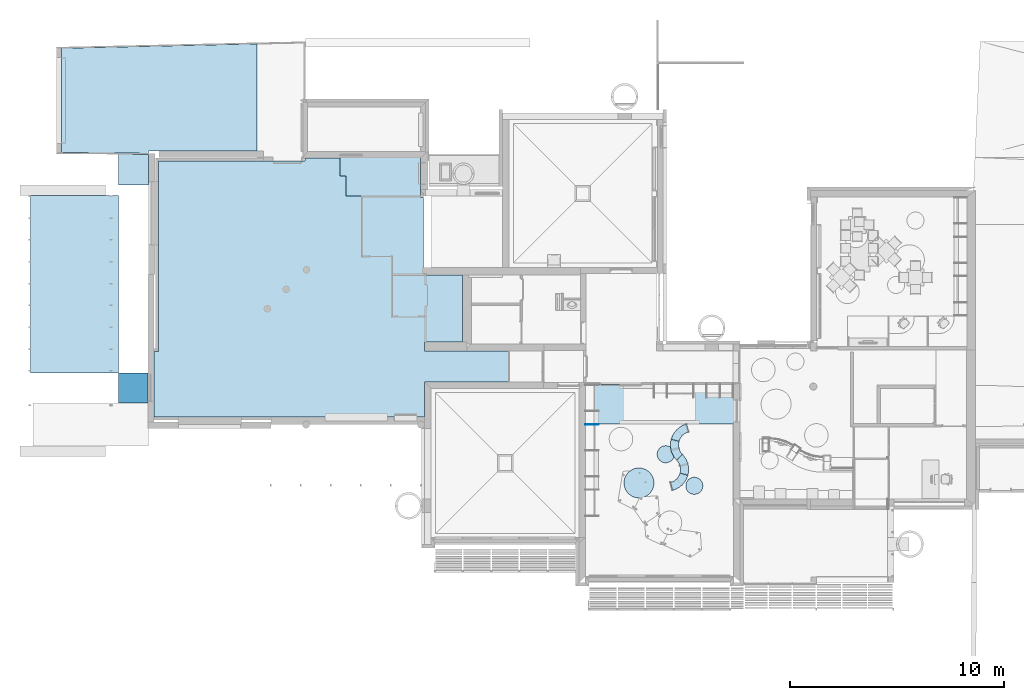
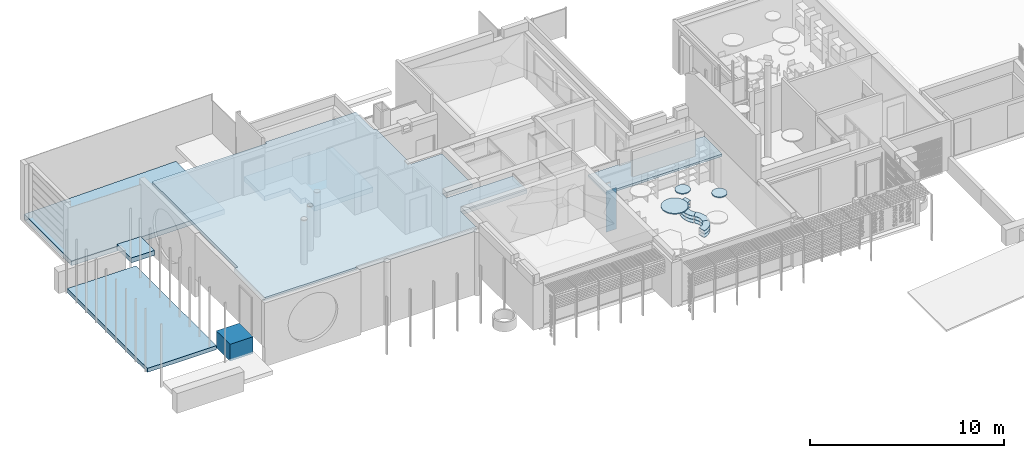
# One storey, part 11 of 64: 23 slabs.
"""IFC2X3 building model written with IfcOpenShell, lengths in metres."""

import ifcopenshell
import ifcopenshell.guid

model = None  # the IFC model being written
_history = None  # IfcOwnerHistory: only IFC2X3 demands one
_inside = {}  # id of a spatial element -> (the spatial element, [elements in it])
_under = {}  # id of a project, library or spatial element -> (it, [spatial elements below it])
_declared = {}  # id of a project -> (the project, [libraries it declares])
_typed = {}  # id of a type object -> (the type object, [elements of that type])
_made_of = {}  # id of a material, layer set ... -> (it, [elements and type objects made of it])


def new_model(schema):
    """Start an empty IFC model of exactly this schema.

    Asked for "IFC4X3", IfcOpenShell would pick the latest addendum, in which some entities
    have other attributes; the version numbers below select the first issue.
    IFC2X3 requires an IfcOwnerHistory on every rooted entity: one is made here for all.
    """
    global model, _history
    if schema == "IFC4X3":
        model = ifcopenshell.file(schema_version=(4, 3, 0, 0))
    else:
        model = ifcopenshell.file(schema=schema)
    _inside.clear()
    _under.clear()
    _declared.clear()
    _typed.clear()
    _made_of.clear()
    _history = None
    if model.schema == "IFC2X3":
        org = make("IfcOrganization", Name="unknown")
        user = make(
            "IfcPersonAndOrganization",
            ThePerson=make("IfcPerson", FamilyName="unknown"),
            TheOrganization=org,
        )
        app = make(
            "IfcApplication",
            ApplicationDeveloper=org,
            Version="unknown",
            ApplicationFullName="unknown",
            ApplicationIdentifier="unknown",
        )
        _history = make(
            "IfcOwnerHistory",
            OwningUser=user,
            OwningApplication=app,
            ChangeAction="ADDED",
            CreationDate=0,
        )
    return model


def make(cls, **values):
    """One entity of the class cls with the attributes given. An attribute that is None is left unset."""
    return model.create_entity(
        cls, **{name: value for name, value in values.items() if value is not None}
    )


def entity(cls, *values):
    """Any entity or typed value of the class cls, its attributes in the order of the schema. None: left unset."""
    e = model.create_entity(cls)
    for i, value in enumerate(values):
        if value is not None:
            e[i] = value
    return e


def rooted(cls, **values):
    """An entity with a GlobalId (a new one), such as an element, a storey or a relation."""
    return make(cls, GlobalId=ifcopenshell.guid.new(), OwnerHistory=_history, **values)


def si_unit(unit_type, name, prefix=None):
    """IfcSIUnit, for example si_unit("LENGTHUNIT", "METRE", prefix="MILLI")."""
    return make("IfcSIUnit", UnitType=unit_type, Prefix=prefix, Name=name)


def converted_unit(unit_type, name, factor, base, dimensions=None, offset=None):
    """IfcConversionBasedUnit, such as the inch: factor (a typed value) times the base unit."""
    return make(
        "IfcConversionBasedUnit"
        if offset is None
        else "IfcConversionBasedUnitWithOffset",
        ConversionOffset=offset,
        Dimensions=None
        if dimensions is None
        else entity("IfcDimensionalExponents", *dimensions),
        UnitType=unit_type,
        Name=name,
        ConversionFactor=make(
            "IfcMeasureWithUnit", ValueComponent=factor, UnitComponent=base
        ),
    )


def derived_unit(unit_type, elements):
    """IfcDerivedUnit: a product of units, each with its exponent."""
    return make(
        "IfcDerivedUnit",
        Elements=[
            make("IfcDerivedUnitElement", Unit=unit, Exponent=power)
            for unit, power in elements
        ],
        UnitType=unit_type,
    )


def assignment(units):
    """IfcUnitAssignment: the units of a project."""
    return None if units is None else make("IfcUnitAssignment", Units=units)


def point(xyz):
    """IfcCartesianPoint."""
    return None if xyz is None else make("IfcCartesianPoint", Coordinates=xyz)


def direction(xyz):
    """IfcDirection."""
    return None if xyz is None else make("IfcDirection", DirectionRatios=xyz)


def frame(location, z_axis=None, x_axis=None):
    """IfcAxis2Placement3D, a coordinate frame: its origin and axes. An axis left out is left unset."""
    return make(
        "IfcAxis2Placement3D",
        Location=point(location),
        Axis=direction(z_axis),
        RefDirection=direction(x_axis),
    )


def frame_2d(location, x_axis=None):
    """IfcAxis2Placement2D, a coordinate frame in the plane: its origin and x axis."""
    return make(
        "IfcAxis2Placement2D", Location=point(location), RefDirection=direction(x_axis)
    )


def origin():
    """The frame at (0, 0, 0) with its axes left unset."""
    return frame((0.0, 0.0, 0.0))


def origin_2d_with_axis():
    """The frame at (0, 0) in the plane with the x axis (1, 0) written out."""
    return frame_2d((0.0, 0.0), x_axis=(1.0, 0.0))


def place(relative_to, where):
    """IfcLocalPlacement: puts the frame where relative to a parent placement (None: the world)."""
    return make(
        "IfcLocalPlacement", PlacementRelTo=relative_to, RelativePlacement=where
    )


def context(
    kind, dimensions, precision=None, world=None, true_north=None, identifier=None
):
    """IfcGeometricRepresentationContext, for example the 3D "Model" context."""
    return make(
        "IfcGeometricRepresentationContext",
        ContextIdentifier=identifier,
        ContextType=kind,
        CoordinateSpaceDimension=dimensions,
        Precision=precision,
        WorldCoordinateSystem=world,
        TrueNorth=true_north,
    )


def subcontext(parent, identifier, kind, view, scale=None):
    """IfcGeometricRepresentationSubContext, for example "Body" below "Model"."""
    return make(
        "IfcGeometricRepresentationSubContext",
        ContextIdentifier=identifier,
        ContextType=kind,
        ParentContext=parent,
        TargetScale=scale,
        TargetView=view,
    )


def project(units=None, contexts=None):
    """IfcProject with its units and contexts."""
    return rooted(
        "IfcProject",
        Name="project",
        RepresentationContexts=contexts,
        UnitsInContext=assignment(units),
    )


def spatial(cls, under=None, at=None, **own):
    """A site, building, storey or space (cls), placed at a placement, below another one or the project."""
    s = rooted(cls, ObjectPlacement=at, **own)
    if under is not None:
        _under.setdefault(under.id(), (under, []))[1].append(s)
    return s


def polyline(points):
    """IfcPolyline through the points."""
    return make("IfcPolyline", Points=[point(p) for p in points])


def circle_curve(where, radius):
    """IfcCircle in the frame where."""
    return make("IfcCircle", Position=where, Radius=radius)


def parameter(value):
    """IfcParameterValue: where a trimmed curve begins or ends, as a parameter of its basis curve."""
    return model.create_entity("IfcParameterValue", value)


def trimmed(basis, trim1, trim2, sense, master):
    """IfcTrimmedCurve: the piece of a basis curve between two trims."""
    return make(
        "IfcTrimmedCurve",
        BasisCurve=basis,
        Trim1=trim1,
        Trim2=trim2,
        SenseAgreement=sense,
        MasterRepresentation=master,
    )


def segment(curve, same_sense, transition):
    """IfcCompositeCurveSegment."""
    return make(
        "IfcCompositeCurveSegment",
        Transition=transition,
        SameSense=same_sense,
        ParentCurve=curve,
    )


def composite_curve(segments, self_intersect=None):
    """IfcCompositeCurve: segments joined end to end."""
    return make("IfcCompositeCurve", Segments=segments, SelfIntersect=self_intersect)


def profile(cls, at=None, kind="AREA", **sizes):
    """A parametric profile (cls). Its sizes go by their IFC names, for example OverallWidth=200.0."""
    return make(cls, ProfileType=kind, Position=at, **sizes)


def rectangle(**sizes):
    """IfcRectangleProfileDef."""
    return profile("IfcRectangleProfileDef", **sizes)


def circle(**sizes):
    """IfcCircleProfileDef."""
    return profile("IfcCircleProfileDef", **sizes)


def outline(outer, holes=None, kind="AREA"):
    """IfcArbitraryClosedProfileDef: a profile drawn as a closed curve; with holes, ...WithVoids."""
    if holes is None:
        return make("IfcArbitraryClosedProfileDef", ProfileType=kind, OuterCurve=outer)
    return make(
        "IfcArbitraryProfileDefWithVoids",
        ProfileType=kind,
        OuterCurve=outer,
        InnerCurves=holes,
    )


def extrude(swept, where, along, depth):
    """IfcExtrudedAreaSolid: the profile swept, set in the frame where, extruded along a direction by depth."""
    return make(
        "IfcExtrudedAreaSolid",
        SweptArea=swept,
        Position=where,
        ExtrudedDirection=direction(along),
        Depth=depth,
    )


def shape(context_of_items, identifier, shape_type, items):
    """IfcShapeRepresentation: the items that make up one representation, for example the "Body"."""
    return make(
        "IfcShapeRepresentation",
        ContextOfItems=context_of_items,
        RepresentationIdentifier=identifier,
        RepresentationType=shape_type,
        Items=items,
    )


def material(Name=None, Category=None):
    """IfcMaterial."""
    return make("IfcMaterial", Name=Name, Category=Category)


def layer(
    of_material, thickness, ventilated=None, Name=None, Category=None, Priority=None
):
    """IfcMaterialLayer: one layer of a wall or slab, of a material (None: an air gap)."""
    return make(
        "IfcMaterialLayer",
        Material=of_material,
        LayerThickness=thickness,
        IsVentilated=ventilated,
        Name=Name,
        Category=Category,
        Priority=Priority,
    )


def layer_set(layers, Name=None):
    """IfcMaterialLayerSet."""
    return make("IfcMaterialLayerSet", MaterialLayers=layers, LayerSetName=Name)


def layer_usage(for_layer_set, set_direction, sense, offset, extent=None):
    """IfcMaterialLayerSetUsage: how a layer set lies in its element."""
    return make(
        "IfcMaterialLayerSetUsage",
        ForLayerSet=for_layer_set,
        LayerSetDirection=set_direction,
        DirectionSense=sense,
        OffsetFromReferenceLine=offset,
        ReferenceExtent=extent,
    )


def made_of(thing, what):
    """Note that an element or type object is made of a material, layer set ...; save() writes the relation."""
    if what is not None:
        _made_of.setdefault(what.id(), (what, []))[1].append(thing)
    return thing


def type_object(cls, material=None, **own):
    """A type object (cls), such as IfcWallType, which elements share."""
    return made_of(rooted(cls, **own), material)


def element(
    cls,
    number,
    at=None,
    inside=None,
    cuts=None,
    type_object=None,
    material=None,
    context=None,
    identifier="Body",
    shape_type=None,
    held_by="IfcProductDefinitionShape",
    body=None,
    shapes=None,
    **own,
):
    """One element of the class cls, such as IfcWall. Its Tag is "e" and its number.

    at: its placement. inside: the storey or other place that contains it. cuts: it is an
    opening in that element (IfcRelVoidsElement). A single representation is given by context,
    identifier, shape_type and body (its items); several are given by shapes. held_by: the class
    of the entity that holds the representations. save() writes the other relations.
    """
    e = rooted(cls, Tag="e%d" % number, ObjectPlacement=at, **own)
    if body is not None:
        shapes = [shape(context, identifier, shape_type, body)]
    if shapes is not None:
        e.Representation = make(held_by, Representations=shapes)
    if inside is not None:
        _inside.setdefault(inside.id(), (inside, []))[1].append(e)
    if cuts is not None:
        rooted(
            "IfcRelVoidsElement", RelatingBuildingElement=cuts, RelatedOpeningElement=e
        )
    if type_object is not None:
        _typed.setdefault(type_object.id(), (type_object, []))[1].append(e)
    return made_of(e, material)


def aggregate(whole, parts):
    """IfcRelAggregates: a whole, such as a stair, and the parts it consists of."""
    return rooted("IfcRelAggregates", RelatingObject=whole, RelatedObjects=parts)


def save(model, path):
    """Write the relations noted so far, then the file.

    IfcRelAggregates (storeys below a building ...), IfcRelContainedInSpatialStructure (elements
    in a storey), IfcRelDefinesByType, IfcRelAssociatesMaterial and IfcRelDeclares: one each for
    every whole, place, type object, material and project.
    """
    for whole, parts in _under.values():
        aggregate(whole, parts)
    for where, things in _inside.values():
        rooted(
            "IfcRelContainedInSpatialStructure",
            RelatedElements=things,
            RelatingStructure=where,
        )
    for kind, things in _typed.values():
        rooted("IfcRelDefinesByType", RelatedObjects=things, RelatingType=kind)
    for what, things in _made_of.values():
        rooted("IfcRelAssociatesMaterial", RelatedObjects=things, RelatingMaterial=what)
    for by, libraries in _declared.values():
        rooted("IfcRelDeclares", RelatingContext=by, RelatedDefinitions=libraries)
    model.write(path)


model = new_model("IFC2X3")

# Units and contexts
model_context = context("Model", 3, precision=1e-05, world=origin(), true_north=direction((6.123031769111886e-17, 1.0)))
body_context = subcontext(model_context, "Body", "Model", "MODEL_VIEW")
ifc_project = project(units=[si_unit("LENGTHUNIT", "METRE"), si_unit("AREAUNIT", "SQUARE_METRE"), si_unit("VOLUMEUNIT", "CUBIC_METRE"), converted_unit("PLANEANGLEUNIT", "DEGREE", entity("IfcRatioMeasure", 0.017453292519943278), si_unit("PLANEANGLEUNIT", "RADIAN"), dimensions=[0, 0, 0, 0, 0, 0, 0]), si_unit("MASSUNIT", "GRAM", prefix="KILO"), derived_unit("MASSDENSITYUNIT", [(si_unit("MASSUNIT", "GRAM", prefix="KILO"), 1), (si_unit("LENGTHUNIT", "METRE"), -3)]), derived_unit("MOMENTOFINERTIAUNIT", [(si_unit("LENGTHUNIT", "METRE"), 4)]), si_unit("TIMEUNIT", "SECOND"), si_unit("FREQUENCYUNIT", "HERTZ"), si_unit("THERMODYNAMICTEMPERATUREUNIT", "DEGREE_CELSIUS"), derived_unit("THERMALTRANSMITTANCEUNIT", [(si_unit("MASSUNIT", "GRAM", prefix="KILO"), 1), (si_unit("THERMODYNAMICTEMPERATUREUNIT", "KELVIN"), -1), (si_unit("TIMEUNIT", "SECOND"), -3)]), derived_unit("THERMALCONDUCTANCEUNIT", [(si_unit("MASSUNIT", "GRAM", prefix="KILO"), 1), (si_unit("LENGTHUNIT", "METRE"), 1), (si_unit("THERMODYNAMICTEMPERATUREUNIT", "KELVIN"), -1), (si_unit("TIMEUNIT", "SECOND"), -3)]), derived_unit("VOLUMETRICFLOWRATEUNIT", [(si_unit("LENGTHUNIT", "METRE"), 3), (si_unit("TIMEUNIT", "SECOND"), -1)]), derived_unit("MASSFLOWRATEUNIT", [(si_unit("MASSUNIT", "GRAM", prefix="KILO"), 1), (si_unit("TIMEUNIT", "SECOND"), -1)]), derived_unit("ROTATIONALFREQUENCYUNIT", [(si_unit("TIMEUNIT", "SECOND"), -1)]), si_unit("ELECTRICCURRENTUNIT", "AMPERE"), si_unit("ELECTRICVOLTAGEUNIT", "VOLT"), si_unit("POWERUNIT", "WATT"), si_unit("FORCEUNIT", "NEWTON", prefix="KILO"), si_unit("ILLUMINANCEUNIT", "LUX"), si_unit("LUMINOUSFLUXUNIT", "LUMEN"), si_unit("LUMINOUSINTENSITYUNIT", "CANDELA"), derived_unit("USERDEFINED", [(si_unit("MASSUNIT", "GRAM", prefix="KILO"), -1), (si_unit("LENGTHUNIT", "METRE"), -2), (si_unit("TIMEUNIT", "SECOND"), 3), (si_unit("LUMINOUSFLUXUNIT", "LUMEN"), 1)]), derived_unit("USERDEFINED", [(si_unit("MASSUNIT", "GRAM", prefix="KILO"), 1), (si_unit("LENGTHUNIT", "METRE"), 3), (si_unit("TIMEUNIT", "SECOND"), -3), (si_unit("ELECTRICCURRENTUNIT", "AMPERE"), -2)]), derived_unit("USERDEFINED", [(si_unit("LENGTHUNIT", "METRE"), 2), (si_unit("TIMEUNIT", "SECOND"), -2)]), derived_unit("SOUNDPOWERUNIT", [(si_unit("MASSUNIT", "GRAM", prefix="KILO"), 1), (si_unit("LENGTHUNIT", "METRE"), 2), (si_unit("TIMEUNIT", "SECOND"), -3)]), derived_unit("SOUNDPRESSUREUNIT", [(si_unit("MASSUNIT", "GRAM", prefix="KILO"), 1), (si_unit("LENGTHUNIT", "METRE"), -1), (si_unit("TIMEUNIT", "SECOND"), -2)]), derived_unit("LINEARVELOCITYUNIT", [(si_unit("LENGTHUNIT", "METRE"), 1), (si_unit("TIMEUNIT", "SECOND"), -1)]), si_unit("PRESSUREUNIT", "PASCAL"), derived_unit("USERDEFINED", [(si_unit("LENGTHUNIT", "METRE"), -2), (si_unit("MASSUNIT", "GRAM", prefix="KILO"), 1), (si_unit("TIMEUNIT", "SECOND"), -2)]), derived_unit("LINEARFORCEUNIT", [(si_unit("MASSUNIT", "GRAM", prefix="KILO"), 1), (si_unit("LENGTHUNIT", "METRE"), 1), (si_unit("TIMEUNIT", "SECOND"), -2), (si_unit("LENGTHUNIT", "METRE"), -1)]), derived_unit("PLANARFORCEUNIT", [(si_unit("MASSUNIT", "GRAM", prefix="KILO"), 1), (si_unit("LENGTHUNIT", "METRE"), 1), (si_unit("TIMEUNIT", "SECOND"), -2), (si_unit("LENGTHUNIT", "METRE"), -2)]), derived_unit("SPECIFICHEATCAPACITYUNIT", [(si_unit("LENGTHUNIT", "METRE"), 2), (si_unit("TIMEUNIT", "SECOND"), -2), (si_unit("THERMODYNAMICTEMPERATUREUNIT", "KELVIN"), -1)]), derived_unit("VAPORPERMEABILITYUNIT", [(si_unit("TIMEUNIT", "SECOND"), 1), (si_unit("LENGTHUNIT", "METRE"), -1)]), derived_unit("DYNAMICVISCOSITYUNIT", [(si_unit("MASSUNIT", "GRAM", prefix="KILO"), 1), (si_unit("LENGTHUNIT", "METRE"), -1), (si_unit("TIMEUNIT", "SECOND"), -1)]), derived_unit("THERMALEXPANSIONCOEFFICIENTUNIT", [(si_unit("THERMODYNAMICTEMPERATUREUNIT", "KELVIN"), -1)])], contexts=[model_context])

# Site, building, storey
site_placement = place(None, origin())
site = spatial("IfcSite", under=ifc_project, at=site_placement, Name="Default", CompositionType="ELEMENT")
building_placement = place(site_placement, origin())
building = spatial("IfcBuilding", under=site, at=building_placement, CompositionType="ELEMENT")
storey_placement = place(building_placement, origin())
storey = spatial("IfcBuildingStorey", under=building, at=storey_placement, Name="REZ-DE-CHAUSSÉE", CompositionType="ELEMENT", Elevation=0.0)

# Slabs
ifc_material_1 = material(Name="Surface-Blanc")
slab_type_1 = type_object("IfcSlabType", Name="Dalle-009:Dalle-009", PredefinedType="FLOOR", material=ifc_material_1)
slab_1_placement = place(storey_placement, origin())
element("IfcSlab", 1, at=slab_1_placement, inside=storey, type_object=slab_type_1, Name="Dalle-009:Dalle-009", ObjectType="Dalle-009:Dalle-009", PredefinedType="FLOOR", context=body_context, shape_type="SweptSolid", body=[
    extrude(rectangle(XDim=1.8499999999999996, YDim=6.920000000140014, at=origin_2d_with_axis()), frame((113.63075228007, 12.5022094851, 2.37), z_axis=(0.0, 0.0, 1.0), x_axis=(0.0, 1.0, 0.0)), (0.0, 0.0, 1.0), 0.11999999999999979),
    extrude(rectangle(XDim=1.8499999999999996, YDim=6.920000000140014, at=origin_2d_with_axis()), frame((113.63075228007, 12.5022094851, 2.35), z_axis=(0.0, 0.0, 1.0), x_axis=(0.0, 1.0, 0.0)), (0.0, 0.0, 1.0), 0.020000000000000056),
])
ifc_material_2 = material(Name="Env. - Herbe verte")
ifc_layer_1 = layer(ifc_material_2, 0.24999999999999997)
ifc_layer_set_1 = layer_set([ifc_layer_1], Name="Sol:Dalle-006:1397")
ifc_layer_usage_1 = layer_usage(ifc_layer_set_1, "AXIS3", "POSITIVE", 0.0)
slab_type_2 = type_object("IfcSlabType", Name="Sol:Dalle-006:1397", PredefinedType="FLOOR", material=ifc_layer_set_1)
slab_2_placement = place(storey_placement, origin())
element("IfcSlab", 2, at=slab_2_placement, inside=storey, type_object=slab_type_2, material=ifc_layer_usage_1, Name="Sol:Dalle-006:1397", ObjectType="Sol:Dalle-006:1397", PredefinedType="FLOOR", context=body_context, shape_type="SweptSolid", body=[
    extrude(rectangle(XDim=8.290000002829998, YDim=4.100000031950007, at=frame_2d((-2.220446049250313e-15, -8.659739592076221e-15), x_axis=(1.0, 0.0))), frame((86.300752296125, 18.102209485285, -0.9499999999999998), z_axis=(0.0, 0.0, -1.0), x_axis=(0.0, 1.0, 0.0)), (0.0, 0.0, 1.0), 0.25),
])
ifc_material_3 = material(Name="Bois - Pin granuleux horizontal")
ifc_layer_2 = layer(ifc_material_3, 0.02)
ifc_layer_set_2 = layer_set([ifc_layer_2], Name="Sol:Dalle-007:1415")
ifc_layer_usage_2 = layer_usage(ifc_layer_set_2, "AXIS3", "POSITIVE", 0.0)
slab_type_3 = type_object("IfcSlabType", Name="Sol:Dalle-007:1415", PredefinedType="FLOOR", material=ifc_layer_set_2)
slab_3_placement = place(storey_placement, origin())
element("IfcSlab", 3, at=slab_3_placement, inside=storey, type_object=slab_type_3, material=ifc_layer_usage_2, Name="Sol:Dalle-007:1415", ObjectType="Sol:Dalle-007:1415", PredefinedType="FLOOR", context=body_context, shape_type="SweptSolid", body=[
    extrude(outline(composite_curve([segment(trimmed(circle_curve(frame_2d((-0.613124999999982, -0.3539878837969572), x_axis=(1.0, 0.0)), 1.0080000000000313), [parameter(0.0)], [parameter(60.00000000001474)], True, "PARAMETER"), True, "CONTINUOUS"), segment(polyline([(-0.10912500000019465, 0.5189657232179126), (-0.29962500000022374, 0.1890100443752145)]), True, "CONTINUOUS"), segment(trimmed(circle_curve(frame_2d((-0.6131249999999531, -0.35398788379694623), x_axis=(0.5000000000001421, 0.8660254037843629)), 0.6269999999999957), [parameter(300.0000000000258)], [parameter(0.0)], True, "PARAMETER"), False, "CONTINUOUS"), segment(polyline([(0.013875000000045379, -0.3539878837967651), (0.39487500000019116, -0.3539878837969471)]), True, "CONTINUOUS")], self_intersect=False)), frame((114.66805827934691, 9.632440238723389, 0.12), z_axis=(0.0, 0.0, -1.0), x_axis=(0.7127800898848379, 0.7013875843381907, 0.0)), (0.0, 0.0, 1.0), 0.020000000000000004),
])
slab_4_placement = place(storey_placement, origin())
element("IfcSlab", 4, at=slab_4_placement, inside=storey, type_object=slab_type_3, material=ifc_layer_usage_2, Name="Sol:Dalle-007:1415", ObjectType="Sol:Dalle-007:1415", PredefinedType="FLOOR", context=body_context, shape_type="SweptSolid", body=[
    extrude(outline(composite_curve([segment(trimmed(circle_curve(frame_2d((-0.613124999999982, -0.3539878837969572), x_axis=(1.0, 0.0)), 1.0080000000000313), [parameter(0.0)], [parameter(60.00000000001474)], True, "PARAMETER"), True, "CONTINUOUS"), segment(polyline([(-0.10912500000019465, 0.5189657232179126), (-0.29962500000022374, 0.1890100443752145)]), True, "CONTINUOUS"), segment(trimmed(circle_curve(frame_2d((-0.6131249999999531, -0.35398788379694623), x_axis=(0.5000000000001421, 0.8660254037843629)), 0.6269999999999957), [parameter(300.0000000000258)], [parameter(0.0)], True, "PARAMETER"), False, "CONTINUOUS"), segment(polyline([(0.013875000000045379, -0.3539878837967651), (0.39487500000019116, -0.3539878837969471)]), True, "CONTINUOUS")], self_intersect=False)), frame((114.66805827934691, 9.632440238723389, 0.5399999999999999), z_axis=(0.0, 0.0, -1.0), x_axis=(0.7127800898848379, 0.7013875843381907, 0.0)), (0.0, 0.0, 1.0), 0.019999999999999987),
])
slab_5_placement = place(storey_placement, origin())
element("IfcSlab", 5, at=slab_5_placement, inside=storey, type_object=slab_type_3, material=ifc_layer_usage_2, Name="Sol:Dalle-007:1415", ObjectType="Sol:Dalle-007:1415", PredefinedType="FLOOR", context=body_context, shape_type="SweptSolid", body=[
    extrude(outline(composite_curve([segment(trimmed(circle_curve(frame_2d((-0.6285893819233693, -0.3464720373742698), x_axis=(1.0, 0.0)), 1.0080000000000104), [parameter(0.0)], [parameter(57.726208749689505)], True, "PARAMETER"), True, "CONTINUOUS"), segment(polyline([(-0.09035201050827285, 0.505798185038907), (-0.2874236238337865, 0.17958397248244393)]), True, "CONTINUOUS"), segment(trimmed(circle_curve(frame_2d((-0.6285893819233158, -0.34647203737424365), x_axis=(0.54412401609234, 0.8390048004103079)), 0.6269999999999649), [parameter(303.65585327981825)], [parameter(0.0)], True, "PARAMETER"), False, "CONTINUOUS"), segment(polyline([(-0.0016349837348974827, -0.3389101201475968), (0.37941061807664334, -0.34647203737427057)]), True, "CONTINUOUS")], self_intersect=False)), frame((114.67752116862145, 9.634894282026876, 0.32999999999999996), z_axis=(0.0, 0.0, -1.0), x_axis=(0.7265561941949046, 0.687107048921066, 0.0)), (0.0, 0.0, 1.0), 0.019999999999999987),
])
slab_6_placement = place(storey_placement, origin())
element("IfcSlab", 6, at=slab_6_placement, inside=storey, type_object=slab_type_3, material=ifc_layer_usage_2, Name="Sol:Dalle-007:1415", ObjectType="Sol:Dalle-007:1415", PredefinedType="FLOOR", context=body_context, shape_type="SweptSolid", body=[
    extrude(outline(composite_curve([segment(trimmed(circle_curve(frame_2d((-0.6131249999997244, -0.35398788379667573), x_axis=(1.0, 0.0)), 1.0080000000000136), [parameter(0.0)], [parameter(59.99999999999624)], True, "PARAMETER"), True, "CONTINUOUS"), segment(polyline([(-0.10912499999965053, 0.5189657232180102), (-0.2996250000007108, 0.18901004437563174)]), True, "CONTINUOUS"), segment(trimmed(circle_curve(frame_2d((-0.6131250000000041, -0.35398788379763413), x_axis=(0.49999999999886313, 0.8660254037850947)), 0.6270000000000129), [parameter(299.99999999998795)], [parameter(0.0)], True, "PARAMETER"), False, "CONTINUOUS"), segment(polyline([(0.013875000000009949, -0.35398788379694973), (0.39487500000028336, -0.35398788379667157)]), True, "CONTINUOUS")], self_intersect=False)), frame((114.4793176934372, 8.950086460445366, 0.5399999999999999), z_axis=(0.0, 0.0, -1.0), x_axis=(0.963809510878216, -0.26659187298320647, 0.0)), (0.0, 0.0, 1.0), 0.019999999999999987),
])
slab_7_placement = place(storey_placement, origin())
element("IfcSlab", 7, at=slab_7_placement, inside=storey, type_object=slab_type_3, material=ifc_layer_usage_2, Name="Sol:Dalle-007:1415", ObjectType="Sol:Dalle-007:1415", PredefinedType="FLOOR", context=body_context, shape_type="SweptSolid", body=[
    extrude(outline(composite_curve([segment(trimmed(circle_curve(frame_2d((-0.6131249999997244, -0.35398788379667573), x_axis=(1.0, 0.0)), 1.0080000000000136), [parameter(0.0)], [parameter(59.99999999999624)], True, "PARAMETER"), True, "CONTINUOUS"), segment(polyline([(-0.10912499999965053, 0.5189657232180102), (-0.2996250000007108, 0.18901004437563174)]), True, "CONTINUOUS"), segment(trimmed(circle_curve(frame_2d((-0.6131250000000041, -0.35398788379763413), x_axis=(0.49999999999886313, 0.8660254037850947)), 0.6270000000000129), [parameter(299.99999999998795)], [parameter(0.0)], True, "PARAMETER"), False, "CONTINUOUS"), segment(polyline([(0.013875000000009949, -0.35398788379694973), (0.39487500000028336, -0.35398788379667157)]), True, "CONTINUOUS")], self_intersect=False)), frame((114.4793176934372, 8.950086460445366, 0.12), z_axis=(0.0, 0.0, -1.0), x_axis=(0.963809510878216, -0.26659187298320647, 0.0)), (0.0, 0.0, 1.0), 0.020000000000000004),
])
slab_8_placement = place(storey_placement, origin())
element("IfcSlab", 8, at=slab_8_placement, inside=storey, type_object=slab_type_3, material=ifc_layer_usage_2, Name="Sol:Dalle-007:1415", ObjectType="Sol:Dalle-007:1415", PredefinedType="FLOOR", context=body_context, shape_type="SweptSolid", body=[
    extrude(outline(composite_curve([segment(trimmed(circle_curve(frame_2d((-0.6285893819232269, -0.34647203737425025), x_axis=(1.0, 0.0)), 1.0079999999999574), [parameter(0.0)], [parameter(57.726208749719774)], True, "PARAMETER"), True, "CONTINUOUS"), segment(polyline([(-0.09035201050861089, 0.5057981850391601), (-0.2874236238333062, 0.17958397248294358)]), True, "CONTINUOUS"), segment(trimmed(circle_curve(frame_2d((-0.6285893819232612, -0.3464720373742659), x_axis=(0.5441240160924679, 0.8390048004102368)), 0.6269999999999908), [parameter(303.65585327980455)], [parameter(0.0)], True, "PARAMETER"), False, "CONTINUOUS"), segment(polyline([(-0.0016349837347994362, -0.3389101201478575), (0.37941061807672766, -0.3464720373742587)]), True, "CONTINUOUS")], self_intersect=False)), frame((114.4861744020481, 8.943118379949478, 0.32999999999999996), z_axis=(0.0, 0.0, -1.0), x_axis=(0.9583302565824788, -0.28566259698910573, 0.0)), (0.0, 0.0, 1.0), 0.019999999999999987),
])
slab_9_placement = place(storey_placement, origin())
element("IfcSlab", 9, at=slab_9_placement, inside=storey, type_object=slab_type_3, material=ifc_layer_usage_2, Name="Sol:Dalle-007:1415", ObjectType="Sol:Dalle-007:1415", PredefinedType="FLOOR", context=body_context, shape_type="SweptSolid", body=[
    extrude(outline(composite_curve([segment(polyline([(-0.39487499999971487, -0.3539878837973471), (-0.01387499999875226, -0.3539878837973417)]), True, "CONTINUOUS"), segment(trimmed(circle_curve(frame_2d((0.613125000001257, -0.35398788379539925), x_axis=(-1.0, 0.0)), 0.6270000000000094), [parameter(299.9999999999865)], [parameter(0.0)], True, "PARAMETER"), False, "CONTINUOUS"), segment(polyline([(0.2996249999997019, 0.18901004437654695), (0.10912499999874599, 0.5189657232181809)]), True, "CONTINUOUS"), segment(trimmed(circle_curve(frame_2d((0.6131250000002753, -0.35398788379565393), x_axis=(-0.5000000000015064, 0.8660254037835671)), 1.007999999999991), [parameter(0.0)], [parameter(59.99999999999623)], True, "PARAMETER"), True, "CONTINUOUS")], self_intersect=False)), frame((114.65158231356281, 11.10611722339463, 0.12), z_axis=(0.0, 0.0, -1.0), x_axis=(0.2510294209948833, -0.96797945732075, 0.0)), (0.0, 0.0, 1.0), 0.020000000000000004),
])
slab_10_placement = place(storey_placement, origin())
element("IfcSlab", 10, at=slab_10_placement, inside=storey, type_object=slab_type_3, material=ifc_layer_usage_2, Name="Sol:Dalle-007:1415", ObjectType="Sol:Dalle-007:1415", PredefinedType="FLOOR", context=body_context, shape_type="SweptSolid", body=[
    extrude(outline(composite_curve([segment(trimmed(circle_curve(frame_2d((0.6215911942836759, 0.3588758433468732), x_axis=(-0.5170846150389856, -0.8559342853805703)), 1.007999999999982), [parameter(302.2737912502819)], [parameter(0.0)], True, "PARAMETER"), True, "CONTINUOUS"), segment(polyline([(0.10036990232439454, -0.5039059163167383), (0.2909302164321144, -0.1738457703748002)]), True, "CONTINUOUS"), segment(trimmed(circle_curve(frame_2d((0.6215911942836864, 0.3588758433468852), x_axis=(-0.9994911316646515, -0.03189792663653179)), 0.6269999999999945), [parameter(0.0)], [parameter(56.3441467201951)], True, "PARAMETER"), False, "CONTINUOUS"), segment(polyline([(-0.005089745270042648, 0.3388758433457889), (-0.3862103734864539, 0.33887584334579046)]), True, "CONTINUOUS")], self_intersect=False)), frame((114.64472560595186, 11.113085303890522, 0.32999999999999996), z_axis=(0.0, 0.0, 1.0), x_axis=(0.25102942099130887, -0.9679794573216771, 0.0)), (0.0, 0.0, -1.0), 0.019999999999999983),
])
slab_11_placement = place(storey_placement, origin())
element("IfcSlab", 11, at=slab_11_placement, inside=storey, type_object=slab_type_3, material=ifc_layer_usage_2, Name="Sol:Dalle-007:1415", ObjectType="Sol:Dalle-007:1415", PredefinedType="FLOOR", context=body_context, shape_type="SweptSolid", body=[
    extrude(outline(composite_curve([segment(polyline([(-0.39487499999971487, -0.3539878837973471), (-0.01387499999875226, -0.3539878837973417)]), True, "CONTINUOUS"), segment(trimmed(circle_curve(frame_2d((0.613125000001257, -0.35398788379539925), x_axis=(-1.0, 0.0)), 0.6270000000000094), [parameter(299.9999999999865)], [parameter(0.0)], True, "PARAMETER"), False, "CONTINUOUS"), segment(polyline([(0.2996249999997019, 0.18901004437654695), (0.10912499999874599, 0.5189657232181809)]), True, "CONTINUOUS"), segment(trimmed(circle_curve(frame_2d((0.6131250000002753, -0.35398788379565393), x_axis=(-0.5000000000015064, 0.8660254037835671)), 1.007999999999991), [parameter(0.0)], [parameter(59.99999999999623)], True, "PARAMETER"), True, "CONTINUOUS")], self_intersect=False)), frame((114.65158231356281, 11.10611722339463, 0.5399999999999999), z_axis=(0.0, 0.0, -1.0), x_axis=(0.2510294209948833, -0.96797945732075, 0.0)), (0.0, 0.0, 1.0), 0.019999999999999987),
])
slab_12_placement = place(storey_placement, origin())
element("IfcSlab", 12, at=slab_12_placement, inside=storey, type_object=slab_type_3, material=ifc_layer_usage_2, Name="Sol:Dalle-007:1415", ObjectType="Sol:Dalle-007:1415", PredefinedType="FLOOR", context=body_context, shape_type="SweptSolid", body=[
    extrude(outline(composite_curve([segment(polyline([(0.013874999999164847, -0.3539878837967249), (0.3948749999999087, -0.3539878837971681)]), True, "CONTINUOUS"), segment(trimmed(circle_curve(frame_2d((-0.6131250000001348, -0.3539878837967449), x_axis=(0.5000000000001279, 0.8660254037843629)), 1.0080000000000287), [parameter(299.9999999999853)], [parameter(0.0)], True, "PARAMETER"), True, "CONTINUOUS"), segment(polyline([(-0.10912499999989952, 0.518965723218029), (-0.2996249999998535, 0.1890100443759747)]), True, "CONTINUOUS"), segment(trimmed(circle_curve(frame_2d((-0.6131250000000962, -0.35398788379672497), x_axis=(1.0, 0.0)), 0.6269999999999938), [parameter(0.0)], [parameter(59.99999999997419)], True, "PARAMETER"), False, "CONTINUOUS")], self_intersect=False)), frame((114.46284172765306, 10.42376344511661, 0.12), z_axis=(0.0, 0.0, 1.0), x_axis=(-0.9638095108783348, 0.2665918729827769, 0.0)), (0.0, 0.0, -1.0), 0.020000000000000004),
])
slab_13_placement = place(storey_placement, origin())
element("IfcSlab", 13, at=slab_13_placement, inside=storey, type_object=slab_type_3, material=ifc_layer_usage_2, Name="Sol:Dalle-007:1415", ObjectType="Sol:Dalle-007:1415", PredefinedType="FLOOR", context=body_context, shape_type="SweptSolid", body=[
    extrude(outline(composite_curve([segment(polyline([(-0.005722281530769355, -0.33886575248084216), (0.3752044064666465, -0.3510227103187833)]), True, "CONTINUOUS"), segment(trimmed(circle_curve(frame_2d((-0.6327222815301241, -0.3388657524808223), x_axis=(0.5441240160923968, 0.8390048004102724)), 1.0080000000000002), [parameter(302.2737912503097)], [parameter(0.0)], True, "PARAMETER"), True, "CONTINUOUS"), segment(polyline([(-0.084245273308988, 0.5068510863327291), (-0.28523685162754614, 0.18303737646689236)]), True, "CONTINUOUS"), segment(trimmed(circle_curve(frame_2d((-0.6327222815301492, -0.3388657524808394), x_axis=(1.0, 0.0)), 0.6270000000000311), [parameter(0.0)], [parameter(56.3441467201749)], True, "PARAMETER"), False, "CONTINUOUS")], self_intersect=False)), frame((114.45337883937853, 10.42130940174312, 0.32999999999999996), z_axis=(0.0, 0.0, 1.0), x_axis=(-0.9718227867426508, 0.2357126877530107, 0.0)), (0.0, 0.0, -1.0), 0.019999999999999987),
])
slab_14_placement = place(storey_placement, origin())
element("IfcSlab", 14, at=slab_14_placement, inside=storey, type_object=slab_type_3, material=ifc_layer_usage_2, Name="Sol:Dalle-007:1415", ObjectType="Sol:Dalle-007:1415", PredefinedType="FLOOR", context=body_context, shape_type="SweptSolid", body=[
    extrude(outline(composite_curve([segment(polyline([(0.013874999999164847, -0.3539878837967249), (0.3948749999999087, -0.3539878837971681)]), True, "CONTINUOUS"), segment(trimmed(circle_curve(frame_2d((-0.6131250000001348, -0.3539878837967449), x_axis=(0.5000000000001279, 0.8660254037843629)), 1.0080000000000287), [parameter(299.9999999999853)], [parameter(0.0)], True, "PARAMETER"), True, "CONTINUOUS"), segment(polyline([(-0.10912499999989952, 0.518965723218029), (-0.2996249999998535, 0.1890100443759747)]), True, "CONTINUOUS"), segment(trimmed(circle_curve(frame_2d((-0.6131250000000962, -0.35398788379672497), x_axis=(1.0, 0.0)), 0.6269999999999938), [parameter(0.0)], [parameter(59.99999999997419)], True, "PARAMETER"), False, "CONTINUOUS")], self_intersect=False)), frame((114.46284172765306, 10.42376344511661, 0.5399999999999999), z_axis=(0.0, 0.0, 1.0), x_axis=(-0.9638095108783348, 0.2665918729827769, 0.0)), (0.0, 0.0, -1.0), 0.019999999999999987),
])
ifc_layer_3 = layer(ifc_material_3, 0.06)
ifc_layer_set_3 = layer_set([ifc_layer_3], Name="Sol:Dalle-006:1419")
ifc_layer_usage_3 = layer_usage(ifc_layer_set_3, "AXIS3", "POSITIVE", 0.0)
slab_type_4 = type_object("IfcSlabType", Name="Sol:Dalle-006:1419", PredefinedType="FLOOR", material=ifc_layer_set_3)
slab_15_placement = place(storey_placement, origin())
element("IfcSlab", 15, at=slab_15_placement, inside=storey, type_object=slab_type_4, material=ifc_layer_usage_3, Name="Sol:Dalle-006:1419", ObjectType="Sol:Dalle-006:1419", PredefinedType="FLOOR", context=body_context, shape_type="SweptSolid", body=[
    extrude(circle(Radius=0.3999999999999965, at=frame_2d((-9.380809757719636e-29, 4.331468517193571e-15), x_axis=(1.0, 0.0))), frame((113.92075228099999, 10.1672094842, 2.2599999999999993), z_axis=(0.0, 0.0, -1.0), x_axis=(-1.0, 0.0, 0.0)), (0.0, 0.0, 1.0), 0.059999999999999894),
])
slab_16_placement = place(storey_placement, origin())
element("IfcSlab", 16, at=slab_16_placement, inside=storey, type_object=slab_type_4, material=ifc_layer_usage_3, Name="Sol:Dalle-006:1419", ObjectType="Sol:Dalle-006:1419", PredefinedType="FLOOR", context=body_context, shape_type="SweptSolid", body=[
    extrude(circle(Radius=0.3999999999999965, at=frame_2d((-1.5830116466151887e-28, 6.497202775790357e-15), x_axis=(1.0, 0.0))), frame((115.25694287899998, 8.694013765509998, 2.4599999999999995), z_axis=(0.0, 0.0, -1.0), x_axis=(-1.0, 0.0, 0.0)), (0.0, 0.0, 1.0), 0.059999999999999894),
])
slab_17_placement = place(storey_placement, origin())
element("IfcSlab", 17, at=slab_17_placement, inside=storey, type_object=slab_type_4, material=ifc_layer_usage_3, Name="Sol:Dalle-006:1419", ObjectType="Sol:Dalle-006:1419", PredefinedType="FLOOR", context=body_context, shape_type="SweptSolid", body=[
    extrude(circle(Radius=0.6999999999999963, at=frame_2d((-7.538150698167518e-29, 5.4143356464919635e-15), x_axis=(1.0, 0.0))), frame((112.67075228, 8.82720948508, 2.4599999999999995), z_axis=(0.0, 0.0, -1.0), x_axis=(1.0, 0.0, 0.0)), (0.0, 0.0, 1.0), 0.059999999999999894),
])
ifc_material_4 = material(Name="Appareillage - Pierre taillé")
ifc_layer_4 = layer(ifc_material_4, 1.06)
ifc_layer_set_4 = layer_set([ifc_layer_4], Name="Sol:Dalle-006:1437")
ifc_layer_usage_4 = layer_usage(ifc_layer_set_4, "AXIS3", "POSITIVE", 0.0)
slab_type_5 = type_object("IfcSlabType", Name="Sol:Dalle-006:1437", PredefinedType="FLOOR", material=ifc_layer_set_4)
slab_18_placement = place(storey_placement, origin())
element("IfcSlab", 18, at=slab_18_placement, inside=storey, type_object=slab_type_5, material=ifc_layer_usage_4, Name="Sol:Dalle-006:1437", ObjectType="Sol:Dalle-006:1437", PredefinedType="FLOOR", context=body_context, shape_type="SweptSolid", body=[
    extrude(rectangle(XDim=1.4100000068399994, YDim=1.3800000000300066, at=frame_2d((2.1649348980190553e-15, 0.0), x_axis=(1.0, 0.0))), frame((89.04075228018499, 13.262209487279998, -0.020000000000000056), z_axis=(0.0, 0.0, -1.0), x_axis=(0.0, 1.0, 0.0)), (0.0, 0.0, 1.0), 1.06),
])
ifc_layer_5 = layer(ifc_material_4, 0.29999999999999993)
ifc_layer_set_5 = layer_set([ifc_layer_5], Name="Sol:Dalle-004")
ifc_layer_usage_5 = layer_usage(ifc_layer_set_5, "AXIS3", "POSITIVE", 0.0)
slab_type_6 = type_object("IfcSlabType", Name="Sol:Dalle-004", PredefinedType="FLOOR", material=ifc_layer_set_5)
slab_19_placement = place(storey_placement, origin())
element("IfcSlab", 19, at=slab_19_placement, inside=storey, type_object=slab_type_6, material=ifc_layer_usage_5, Name="Sol:Dalle-004", ObjectType="Sol:Dalle-004", PredefinedType="FLOOR", context=body_context, shape_type="SweptSolid", body=[
    extrude(outline(polyline([(-1.6743855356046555, -4.406763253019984), (3.1958253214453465, -4.406763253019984), (3.4017260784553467, 4.743381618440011), (-1.6043894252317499, 4.743381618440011), (-1.6043894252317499, -0.3366183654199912), (-1.7143870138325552, -0.3366183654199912), (-1.6743855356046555, -4.406763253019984)])), frame((90.08737066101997, 25.941598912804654, -0.9399999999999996), z_axis=(0.0, 0.0, -1.0), x_axis=(0.0, 1.0, 0.0)), (0.0, 0.0, 1.0), 0.30000000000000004),
])
slab_20_placement = place(storey_placement, origin())
element("IfcSlab", 20, at=slab_20_placement, inside=storey, type_object=slab_type_6, material=ifc_layer_usage_5, Name="Sol:Dalle-004", ObjectType="Sol:Dalle-004", PredefinedType="FLOOR", context=body_context, shape_type="SweptSolid", body=[
    extrude(outline(polyline([(0.24333332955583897, -2.5625000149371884), (2.323333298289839, -2.5625000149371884), (2.323333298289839, 2.7175000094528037), (0.24333332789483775, 2.7175000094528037), (0.24333332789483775, 2.7075000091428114), (-1.8366666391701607, 2.7075000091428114), (-1.8366666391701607, -0.7724999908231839), (-0.916666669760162, -0.7724999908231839), (-0.916666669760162, -1.0524999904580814), (-0.05666664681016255, -1.0524999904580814), (-0.05666664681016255, -1.0375000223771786), (0.24333332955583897, -1.0375000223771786), (0.24333332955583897, -2.5625000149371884)])), frame((99.75325227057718, 24.07387615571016, -0.9399999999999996), z_axis=(0.0, 0.0, -1.0), x_axis=(0.0, 1.0, 0.0)), (0.0, 0.0, 1.0), 0.30000000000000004),
])
ifc_layer_6 = layer(ifc_material_4, 0.31)
ifc_layer_set_6 = layer_set([ifc_layer_6], Name="Sol:Dalle-006:1439")
ifc_layer_usage_6 = layer_usage(ifc_layer_set_6, "AXIS3", "POSITIVE", 0.0)
slab_type_7 = type_object("IfcSlabType", Name="Sol:Dalle-006:1439", PredefinedType="FLOOR", material=ifc_layer_set_6)
slab_21_placement = place(storey_placement, origin())
element("IfcSlab", 21, at=slab_21_placement, inside=storey, type_object=slab_type_7, material=ifc_layer_usage_6, Name="Sol:Dalle-006:1439", ObjectType="Sol:Dalle-006:1439", PredefinedType="FLOOR", context=body_context, shape_type="SweptSolid", body=[
    extrude(outline(polyline([(-0.7184398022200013, -0.6999999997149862), (0.7253194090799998, -0.6999999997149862), (0.7115601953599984, 0.6999999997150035), (-0.7184398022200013, 0.6999999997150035), (-0.7184398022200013, -0.6999999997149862)])), frame((89.05075227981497, 23.46564928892, -0.7700000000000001), z_axis=(0.0, 0.0, -1.0), x_axis=(0.0, 1.0, 0.0)), (0.0, 0.0, 1.0), 0.30999999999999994),
])
ifc_material_5 = material(Name="Isolation - Fibre de verre")
ifc_layer_7 = layer(ifc_material_5, 0.2)
ifc_material_6 = material(Name="Plâtre - Plaques de plâtre")
ifc_layer_8 = layer(ifc_material_6, 0.02)
ifc_layer_set_7 = layer_set([ifc_layer_7, ifc_layer_8], Name="Sol:Dalle-007:1505")
ifc_layer_usage_7 = layer_usage(ifc_layer_set_7, "AXIS3", "POSITIVE", 0.0)
slab_type_8 = type_object("IfcSlabType", Name="Sol:Dalle-007:1505", PredefinedType="FLOOR", material=ifc_layer_set_7)
slab_22_placement = place(storey_placement, origin())
element("IfcSlab", 22, at=slab_22_placement, inside=storey, type_object=slab_type_8, material=ifc_layer_usage_7, Name="Sol:Dalle-007:1505", ObjectType="Sol:Dalle-007:1505", PredefinedType="FLOOR", context=body_context, shape_type="SweptSolid", body=[
    extrude(outline(polyline([(-5.805555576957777, -9.856666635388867), (-2.735555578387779, -9.856666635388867), (-2.735555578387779, -9.626666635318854), (6.154444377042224, -9.626666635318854), (6.154444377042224, -2.7866666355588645), (6.304444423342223, -2.7866666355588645), (6.304444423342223, 2.603333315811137), (4.454444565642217, 2.603333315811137), (4.454444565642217, 2.7433333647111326), (0.824444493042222, 2.7433333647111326), (0.824444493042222, 4.563333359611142), (-2.3055556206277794, 4.563333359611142), (-2.3055556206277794, 2.803333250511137), (-2.725555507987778, 2.803333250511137), (-2.725555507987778, 6.753333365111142), (-4.165555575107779, 6.753333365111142), (-4.165555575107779, 2.803333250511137), (-5.805555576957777, 2.803333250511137), (-5.805555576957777, -9.856666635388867)])), frame((99.85741891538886, 17.712765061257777, 2.72), z_axis=(0.0, 0.0, -1.0), x_axis=(0.0, 1.0, 0.0)), (0.0, 0.0, 1.0), 0.2199999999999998),
])
ifc_layer_9 = layer(ifc_material_3, 2.6)
ifc_layer_set_8 = layer_set([ifc_layer_9], Name="Sol:Dalle-006:1522")
ifc_layer_usage_8 = layer_usage(ifc_layer_set_8, "AXIS3", "POSITIVE", 0.0)
slab_type_9 = type_object("IfcSlabType", Name="Sol:Dalle-006:1522", PredefinedType="FLOOR", material=ifc_layer_set_8)
slab_23_placement = place(storey_placement, origin())
element("IfcSlab", 23, at=slab_23_placement, inside=storey, type_object=slab_type_9, material=ifc_layer_usage_8, Name="Sol:Dalle-006:1522", ObjectType="Sol:Dalle-006:1522", PredefinedType="FLOOR", context=body_context, shape_type="SweptSolid", body=[
    extrude(outline(composite_curve([segment(polyline([(-0.009999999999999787, -0.29999999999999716), (0.009999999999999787, -0.29999999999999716)]), True, "CONTINUOUS"), segment(polyline([(0.009999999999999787, -0.29999999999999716), (0.009999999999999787, 0.29999999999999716)]), True, "CONTINUOUS"), segment(trimmed(circle_curve(frame_2d((0.0, 0.29999999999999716), x_axis=(1.0, 0.0)), 0.010000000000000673), [parameter(0.0)], [parameter(180.00000000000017)], True, "PARAMETER"), True, "CONTINUOUS"), segment(polyline([(-0.009999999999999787, 0.29999999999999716), (-0.009999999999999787, -0.29999999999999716)]), True, "CONTINUOUS")], self_intersect=False)), frame((110.47075228, 11.5672094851, 2.6), z_axis=(0.0, 0.0, -1.0), x_axis=(0.0, 1.0, 0.0)), (0.0, 0.0, 1.0), 2.6),
])

save(model, "model.ifc")
